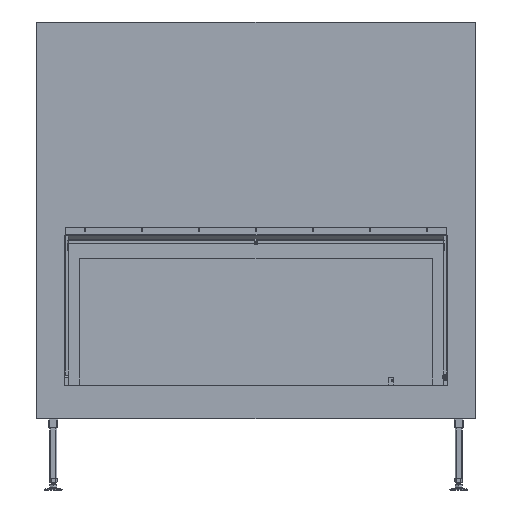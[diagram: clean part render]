
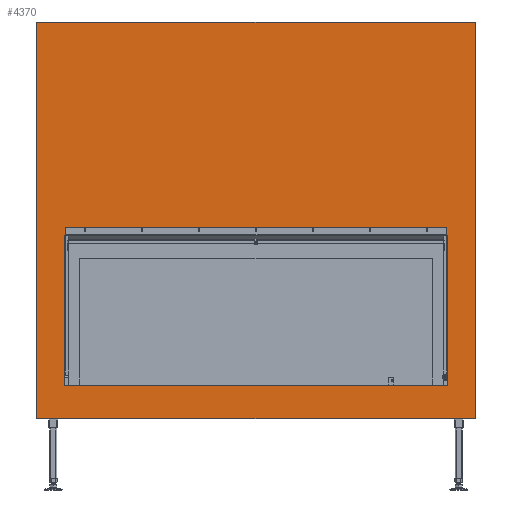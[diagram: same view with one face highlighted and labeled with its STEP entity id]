
A CAD part, front view. The second image highlights one B-rep face of the part: STEP entity #4370.
In plain terms, the highlighted planar face has unit normal (0, -1, 0).
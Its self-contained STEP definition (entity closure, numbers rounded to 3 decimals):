
#100=CARTESIAN_POINT('',(460.,-2305.,-33.));
#110=VERTEX_POINT('',#100);
#160=CARTESIAN_POINT('',(756.,-2305.,-33.));
#170=DIRECTION('',(1.,0.,0.));
#180=VECTOR('',#170,1.);
#190=LINE('',#160,#180);
#200=CARTESIAN_POINT('',(1960.,-2305.,-33.));
#210=VERTEX_POINT('',#200);
#220=EDGE_CURVE('',#110,#210,#190,.T.);
#3210=CARTESIAN_POINT('',(756.,-2305.,1077.));
#3220=DIRECTION('',(0.,1.,0.));
#3230=DIRECTION('',(0.,0.,1.));
#3240=AXIS2_PLACEMENT_3D('',#3210,#3220,#3230);
#3250=PLANE('',#3240);
#3260=CARTESIAN_POINT('',(1865.,-2305.,521.5));
#3270=DIRECTION('',(0.,0.,1.));
#3280=VECTOR('',#3270,1.);
#3290=LINE('',#3260,#3280);
#3300=CARTESIAN_POINT('',(1865.,-2305.,83.));
#3310=VERTEX_POINT('',#3300);
#3320=CARTESIAN_POINT('',(1865.,-2305.,593.));
#3330=VERTEX_POINT('',#3320);
#3340=EDGE_CURVE('',#3310,#3330,#3290,.T.);
#3350=ORIENTED_EDGE('',*,*,#3340,.F.);
#3360=CARTESIAN_POINT('',(756.,-2305.,593.));
#3370=DIRECTION('',(-1.,0.,0.));
#3380=VECTOR('',#3370,1.);
#3390=LINE('',#3360,#3380);
#3400=CARTESIAN_POINT('',(555.,-2305.,593.));
#3410=VERTEX_POINT('',#3400);
#3420=EDGE_CURVE('',#3330,#3410,#3390,.T.);
#3430=ORIENTED_EDGE('',*,*,#3420,.F.);
#3440=CARTESIAN_POINT('',(555.,-2305.,521.5));
#3450=DIRECTION('',(0.,0.,-1.));
#3460=VECTOR('',#3450,1.);
#3470=LINE('',#3440,#3460);
#3480=CARTESIAN_POINT('',(555.,-2305.,83.));
#3490=VERTEX_POINT('',#3480);
#3500=EDGE_CURVE('',#3410,#3490,#3470,.T.);
#3510=ORIENTED_EDGE('',*,*,#3500,.F.);
#3520=CARTESIAN_POINT('',(756.,-2305.,83.));
#3530=DIRECTION('',(1.,0.,0.));
#3540=VECTOR('',#3530,1.);
#3550=LINE('',#3520,#3540);
#3560=EDGE_CURVE('',#3490,#3310,#3550,.T.);
#3570=ORIENTED_EDGE('',*,*,#3560,.F.);
#3580=EDGE_LOOP('',(#3570,#3510,#3430,#3350));
#3590=FACE_BOUND('',#3580,.T.);
#3600=CARTESIAN_POINT('',(460.,-2305.,1077.));
#3610=DIRECTION('',(0.,0.,-1.));
#3620=VECTOR('',#3610,1.);
#3630=LINE('',#3600,#3620);
#3640=CARTESIAN_POINT('',(460.,-2305.,1324.));
#3650=VERTEX_POINT('',#3640);
#3660=EDGE_CURVE('',#3650,#110,#3630,.T.);
#3670=ORIENTED_EDGE('',*,*,#3660,.T.);
#3680=CARTESIAN_POINT('',(1960.,-2305.,1324.));
#3690=DIRECTION('',(-1.,0.,0.));
#3700=VECTOR('',#3690,1.);
#3710=LINE('',#3680,#3700);
#3720=CARTESIAN_POINT('',(1960.,-2305.,1324.));
#3730=VERTEX_POINT('',#3720);
#3740=EDGE_CURVE('',#3730,#3650,#3710,.T.);
#3750=ORIENTED_EDGE('',*,*,#3740,.T.);
#3760=CARTESIAN_POINT('',(1960.,-2305.,1077.));
#3770=DIRECTION('',(0.,0.,-1.));
#3780=VECTOR('',#3770,1.);
#3790=LINE('',#3760,#3780);
#3800=EDGE_CURVE('',#3730,#210,#3790,.T.);
#3810=ORIENTED_EDGE('',*,*,#3800,.F.);
#3820=ORIENTED_EDGE('',*,*,#220,.T.);
#3830=EDGE_LOOP('',(#3820,#3810,#3750,#3670));
#3840=FACE_OUTER_BOUND('',#3830,.T.);
#3850=CARTESIAN_POINT('',(560.,-2305.,521.5));
#3860=DIRECTION('',(0.,0.,1.));
#3870=VECTOR('',#3860,1.);
#3880=LINE('',#3850,#3870);
#3890=CARTESIAN_POINT('',(560.,-2305.,597.));
#3900=VERTEX_POINT('',#3890);
#3910=CARTESIAN_POINT('',(560.,-2305.,621.));
#3920=VERTEX_POINT('',#3910);
#3930=EDGE_CURVE('',#3900,#3920,#3880,.T.);
#3940=ORIENTED_EDGE('',*,*,#3930,.T.);
#3950=CARTESIAN_POINT('',(1860.,-2305.,597.));
#3960=DIRECTION('',(-1.,0.,0.));
#3970=VECTOR('',#3960,1.);
#3980=LINE('',#3950,#3970);
#3990=CARTESIAN_POINT('',(1860.,-2305.,597.));
#4000=VERTEX_POINT('',#3990);
#4010=EDGE_CURVE('',#4000,#3900,#3980,.T.);
#4020=ORIENTED_EDGE('',*,*,#4010,.T.);
#4030=CARTESIAN_POINT('',(1860.,-2305.,521.5));
#4040=DIRECTION('',(0.,0.,1.));
#4050=VECTOR('',#4040,1.);
#4060=LINE('',#4030,#4050);
#4070=CARTESIAN_POINT('',(1860.,-2305.,621.));
#4080=VERTEX_POINT('',#4070);
#4090=EDGE_CURVE('',#4000,#4080,#4060,.T.);
#4100=ORIENTED_EDGE('',*,*,#4090,.F.);
#4110=CARTESIAN_POINT('',(1858.,-2305.,621.));
#4120=DIRECTION('',(0.,-1.,0.));
#4130=DIRECTION('',(0.707,0.,
0.707));
#4140=AXIS2_PLACEMENT_3D('',#4110,#4120,#4130);
#4150=CIRCLE('',#4140,2.);
#4160=CARTESIAN_POINT('',(1858.,-2305.,623.));
#4170=VERTEX_POINT('',#4160);
#4180=EDGE_CURVE('',#4080,#4170,#4150,.T.);
#4190=ORIENTED_EDGE('',*,*,#4180,.F.);
#4200=CARTESIAN_POINT('',(756.,-2305.,623.));
#4210=DIRECTION('',(1.,0.,0.));
#4220=VECTOR('',#4210,1.);
#4230=LINE('',#4200,#4220);
#4240=CARTESIAN_POINT('',(562.,-2305.,623.));
#4250=VERTEX_POINT('',#4240);
#4260=EDGE_CURVE('',#4250,#4170,#4230,.T.);
#4270=ORIENTED_EDGE('',*,*,#4260,.T.);
#4280=CARTESIAN_POINT('',(562.,-2305.,621.));
#4290=DIRECTION('',(0.,-1.,0.));
#4300=DIRECTION('',(-0.707,0.,
0.707));
#4310=AXIS2_PLACEMENT_3D('',#4280,#4290,#4300);
#4320=CIRCLE('',#4310,2.);
#4330=EDGE_CURVE('',#4250,#3920,#4320,.T.);
#4340=ORIENTED_EDGE('',*,*,#4330,.F.);
#4350=EDGE_LOOP('',(#4340,#4270,#4190,#4100,#4020,#3940));
#4360=FACE_BOUND('',#4350,.T.);
#4370=ADVANCED_FACE('',(#3590,#3840,#4360),#3250,.F.);
